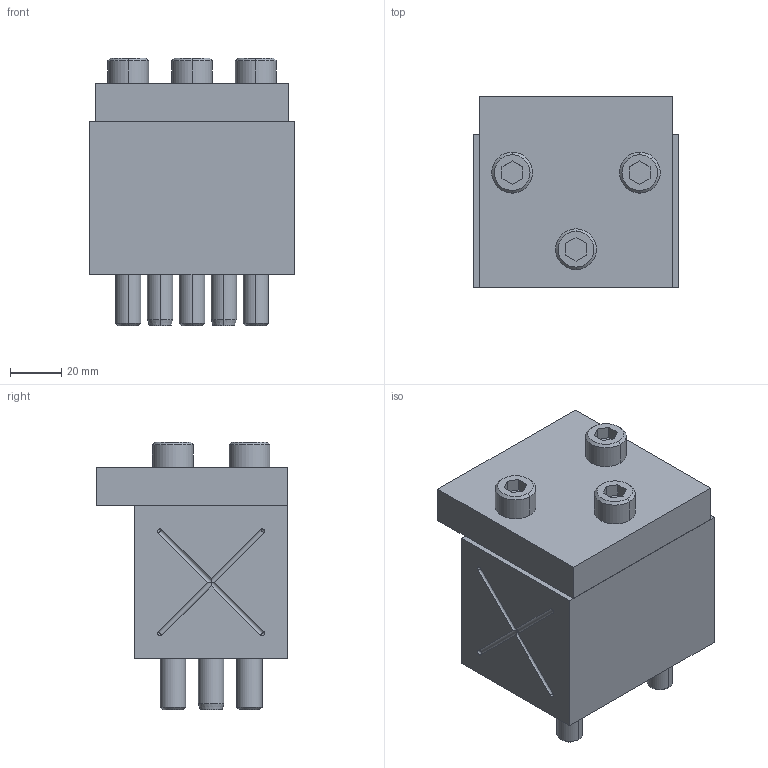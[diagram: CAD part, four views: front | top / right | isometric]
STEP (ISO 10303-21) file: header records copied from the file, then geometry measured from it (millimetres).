
FILE_DESCRIPTION((''),'2;1');
FILE_NAME('','2010-09-29T17:39:17+09:00',('misumi'),(''),'M/STEP i/f 1R2-14','CADmeister v5.1','');
FILE_SCHEMA(('AUTOMOTIVE_DESIGN'));
Length unit declared in the file: millimetre
Products named in the file (1): KEPNZ80-60-15
Bounding box: 80 x 75 x 105 mm (x, y, z)
Volume: 355082.7 mm3; surface area: 74784.8 mm2
Topology: 10 solids, 10 shells, 206 faces, 472 edges, 299 vertices
Faces by surface type: plane 86, cylinder 76, cone 32, revolution 12
Entity records: 8695 total; most frequent: CARTESIAN_POINT 1074, DIRECTION 1062, ORIENTED_EDGE 920, COLOUR_RGB 628, CURVE_STYLE 547, PRESENTATION_STYLE_ASSIGNMENT 537, OVER_RIDING_STYLED_ITEM 527, EDGE_CURVE 460
